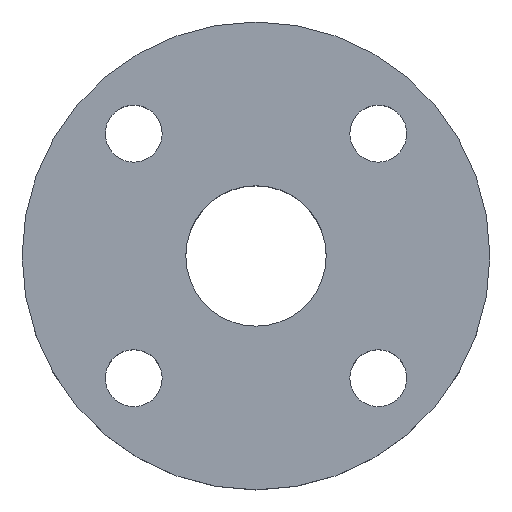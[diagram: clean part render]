
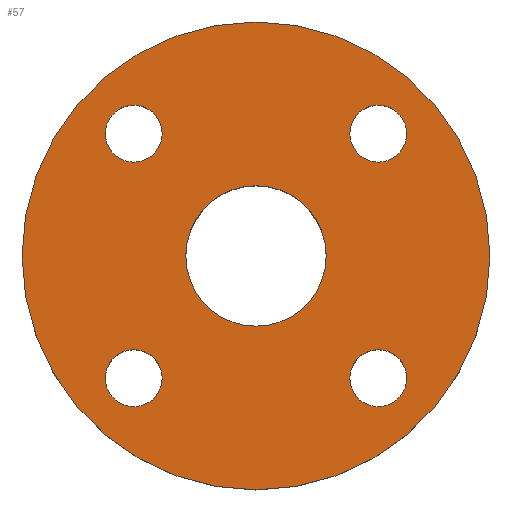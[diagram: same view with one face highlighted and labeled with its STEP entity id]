
A CAD part, top view. The second image highlights one B-rep face of the part: STEP entity #57.
In plain terms, the highlighted planar face has unit normal (0, 0, 1).
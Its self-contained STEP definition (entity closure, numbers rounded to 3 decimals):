
#9 = EDGE_CURVE ( 'NONE', #257, #280, #83, .T. ) ;
#11 = CIRCLE ( 'NONE', #14, 7. ) ;
#12 = EDGE_CURVE ( 'NONE', #343, #351, #82, .T. ) ;
#13 = EDGE_CURVE ( 'NONE', #351, #343, #74, .T. ) ;
#14 = AXIS2_PLACEMENT_3D ( 'NONE', #192, #195, #196 ) ;
#16 = CIRCLE ( 'NONE', #19, 7. ) ;
#19 = AXIS2_PLACEMENT_3D ( 'NONE', #221, #244, #245 ) ;
#42 = AXIS2_PLACEMENT_3D ( 'NONE', #503, #504, #505 ) ;
#43 = EDGE_CURVE ( 'NONE', #265, #426, #137, .T. ) ;
#44 = EDGE_CURVE ( 'NONE', #411, #263, #118, .T. ) ;
#45 = CIRCLE ( 'NONE', #59, 7. ) ;
#57 = ADVANCED_FACE ( 'NONE', ( #514, #515, #516, #518, #519, #520 ), #521, .T. ) ;
#59 = AXIS2_PLACEMENT_3D ( 'NONE', #542, #543, #544 ) ;
#63 = EDGE_CURVE ( 'NONE', #280, #257, #238, .T. ) ;
#73 = AXIS2_PLACEMENT_3D ( 'NONE', #471, #472, #473 ) ;
#74 = CIRCLE ( 'NONE', #73, 7. ) ;
#81 = AXIS2_PLACEMENT_3D ( 'NONE', #468, #469, #470 ) ;
#82 = CIRCLE ( 'NONE', #81, 7. ) ;
#83 = CIRCLE ( 'NONE', #147, 57.5 ) ;
#118 = CIRCLE ( 'NONE', #42, 7. ) ;
#121 = EDGE_CURVE ( 'NONE', #260, #441, #45, .T. ) ;
#122 = AXIS2_PLACEMENT_3D ( 'NONE', #499, #501, #502 ) ;
#129 = EDGE_CURVE ( 'NONE', #426, #265, #225, .T. ) ;
#130 = AXIS2_PLACEMENT_3D ( 'NONE', #608, #609, #610 ) ;
#131 = CIRCLE ( 'NONE', #130, 7. ) ;
#137 = CIRCLE ( 'NONE', #122, 17.25 ) ;
#147 = AXIS2_PLACEMENT_3D ( 'NONE', #465, #466, #467 ) ;
#192 = CARTESIAN_POINT ( 'NONE',  ( -30.052, 30.052, 0. ) ) ;
#193 = EDGE_CURVE ( 'NONE', #370, #347, #232, .T. ) ;
#195 = DIRECTION ( 'NONE',  ( 0., 0., -1. ) ) ;
#196 = DIRECTION ( 'NONE',  ( -1., 0., 0. ) ) ;
#203 = AXIS2_PLACEMENT_3D ( 'NONE', #545, #546, #548 ) ;
#210 = CARTESIAN_POINT ( 'NONE',  ( 37.052, 30.052, 0. ) ) ;
#212 = CARTESIAN_POINT ( 'NONE',  ( -23.052, 30.052, 0. ) ) ;
#214 = CARTESIAN_POINT ( 'NONE',  ( 23.052, 30.052, 0. ) ) ;
#221 = CARTESIAN_POINT ( 'NONE',  ( -30.052, -30.052, 0. ) ) ;
#225 = CIRCLE ( 'NONE', #203, 17.25 ) ;
#232 = CIRCLE ( 'NONE', #234, 7. ) ;
#234 = AXIS2_PLACEMENT_3D ( 'NONE', #585, #586, #587 ) ;
#237 = AXIS2_PLACEMENT_3D ( 'NONE', #525, #526, #527 ) ;
#238 = CIRCLE ( 'NONE', #237, 57.5 ) ;
#241 = AXIS2_PLACEMENT_3D ( 'NONE', #522, #523, #524 ) ;
#244 = DIRECTION ( 'NONE',  ( 0., 0., -1. ) ) ;
#245 = DIRECTION ( 'NONE',  ( -1., 0., 0. ) ) ;
#251 = EDGE_CURVE ( 'NONE', #263, #411, #131, .T. ) ;
#257 = VERTEX_POINT ( 'NONE', #618 ) ;
#260 = VERTEX_POINT ( 'NONE', #624 ) ;
#262 = EDGE_LOOP ( 'NONE', ( #378, #379 ) ) ;
#263 = VERTEX_POINT ( 'NONE', #631 ) ;
#265 = VERTEX_POINT ( 'NONE', #633 ) ;
#280 = VERTEX_POINT ( 'NONE', #636 ) ;
#283 = CARTESIAN_POINT ( 'NONE',  ( -37.052, 30.052, 0. ) ) ;
#293 = CARTESIAN_POINT ( 'NONE',  ( 23.052, -30.052, 0. ) ) ;
#294 = EDGE_LOOP ( 'NONE', ( #382, #383 ) ) ;
#307 = CARTESIAN_POINT ( 'NONE',  ( -17.25, 0., 0. ) ) ;
#311 = CARTESIAN_POINT ( 'NONE',  ( -37.052, -30.052, 0. ) ) ;
#331 = EDGE_CURVE ( 'NONE', #347, #370, #11, .T. ) ;
#334 = EDGE_LOOP ( 'NONE', ( #384, #385 ) ) ;
#343 = VERTEX_POINT ( 'NONE', #210 ) ;
#347 = VERTEX_POINT ( 'NONE', #212 ) ;
#351 = VERTEX_POINT ( 'NONE', #214 ) ;
#356 = EDGE_CURVE ( 'NONE', #441, #260, #16, .T. ) ;
#370 = VERTEX_POINT ( 'NONE', #283 ) ;
#373 = ORIENTED_EDGE ( 'NONE', *, *, #251, .T. ) ;
#375 = ORIENTED_EDGE ( 'NONE', *, *, #44, .T. ) ;
#376 = ORIENTED_EDGE ( 'NONE', *, *, #121, .T. ) ;
#377 = ORIENTED_EDGE ( 'NONE', *, *, #356, .T. ) ;
#378 = ORIENTED_EDGE ( 'NONE', *, *, #331, .T. ) ;
#379 = ORIENTED_EDGE ( 'NONE', *, *, #193, .T. ) ;
#380 = ORIENTED_EDGE ( 'NONE', *, *, #12, .T. ) ;
#381 = ORIENTED_EDGE ( 'NONE', *, *, #13, .T. ) ;
#382 = ORIENTED_EDGE ( 'NONE', *, *, #43, .F. ) ;
#383 = ORIENTED_EDGE ( 'NONE', *, *, #129, .F. ) ;
#384 = ORIENTED_EDGE ( 'NONE', *, *, #9, .T. ) ;
#385 = ORIENTED_EDGE ( 'NONE', *, *, #63, .T. ) ;
#411 = VERTEX_POINT ( 'NONE', #293 ) ;
#426 = VERTEX_POINT ( 'NONE', #307 ) ;
#439 = EDGE_LOOP ( 'NONE', ( #373, #375 ) ) ;
#440 = EDGE_LOOP ( 'NONE', ( #376, #377 ) ) ;
#441 = VERTEX_POINT ( 'NONE', #311 ) ;
#446 = EDGE_LOOP ( 'NONE', ( #380, #381 ) ) ;
#465 = CARTESIAN_POINT ( 'NONE',  ( 0., 0., 0. ) ) ;
#466 = DIRECTION ( 'NONE',  ( 0., 0., 1. ) ) ;
#467 = DIRECTION ( 'NONE',  ( 1., 0., 0. ) ) ;
#468 = CARTESIAN_POINT ( 'NONE',  ( 30.052, 30.052, 0. ) ) ;
#469 = DIRECTION ( 'NONE',  ( 0., 0., -1. ) ) ;
#470 = DIRECTION ( 'NONE',  ( -1., 0., 0. ) ) ;
#471 = CARTESIAN_POINT ( 'NONE',  ( 30.052, 30.052, 0. ) ) ;
#472 = DIRECTION ( 'NONE',  ( 0., 0., -1. ) ) ;
#473 = DIRECTION ( 'NONE',  ( -1., 0., 0. ) ) ;
#499 = CARTESIAN_POINT ( 'NONE',  ( 0., 0., 0. ) ) ;
#501 = DIRECTION ( 'NONE',  ( 0., 0., 1. ) ) ;
#502 = DIRECTION ( 'NONE',  ( 1., 0., 0. ) ) ;
#503 = CARTESIAN_POINT ( 'NONE',  ( 30.052, -30.052, 0. ) ) ;
#504 = DIRECTION ( 'NONE',  ( 0., 0., -1. ) ) ;
#505 = DIRECTION ( 'NONE',  ( -1., 0., 0. ) ) ;
#514 = FACE_BOUND ( 'NONE', #439, .T. ) ;
#515 = FACE_BOUND ( 'NONE', #440, .T. ) ;
#516 = FACE_BOUND ( 'NONE', #262, .T. ) ;
#518 = FACE_BOUND ( 'NONE', #446, .T. ) ;
#519 = FACE_BOUND ( 'NONE', #294, .T. ) ;
#520 = FACE_OUTER_BOUND ( 'NONE', #334, .T. ) ;
#521 = PLANE ( 'NONE',  #241 ) ;
#522 = CARTESIAN_POINT ( 'NONE',  ( 0., 0., 0. ) ) ;
#523 = DIRECTION ( 'NONE',  ( 0., 0., 1. ) ) ;
#524 = DIRECTION ( 'NONE',  ( 1., 0., 0. ) ) ;
#525 = CARTESIAN_POINT ( 'NONE',  ( 0., 0., 0. ) ) ;
#526 = DIRECTION ( 'NONE',  ( 0., 0., 1. ) ) ;
#527 = DIRECTION ( 'NONE',  ( 1., 0., 0. ) ) ;
#542 = CARTESIAN_POINT ( 'NONE',  ( -30.052, -30.052, 0. ) ) ;
#543 = DIRECTION ( 'NONE',  ( 0., 0., -1. ) ) ;
#544 = DIRECTION ( 'NONE',  ( -1., 0., 0. ) ) ;
#545 = CARTESIAN_POINT ( 'NONE',  ( 0., 0., 0. ) ) ;
#546 = DIRECTION ( 'NONE',  ( 0., 0., 1. ) ) ;
#548 = DIRECTION ( 'NONE',  ( 1., 0., 0. ) ) ;
#585 = CARTESIAN_POINT ( 'NONE',  ( -30.052, 30.052, 0. ) ) ;
#586 = DIRECTION ( 'NONE',  ( 0., 0., -1. ) ) ;
#587 = DIRECTION ( 'NONE',  ( -1., 0., 0. ) ) ;
#608 = CARTESIAN_POINT ( 'NONE',  ( 30.052, -30.052, 0. ) ) ;
#609 = DIRECTION ( 'NONE',  ( 0., 0., -1. ) ) ;
#610 = DIRECTION ( 'NONE',  ( -1., 0., 0. ) ) ;
#618 = CARTESIAN_POINT ( 'NONE',  ( 57.5, 0., 0. ) ) ;
#624 = CARTESIAN_POINT ( 'NONE',  ( -23.052, -30.052, 0. ) ) ;
#631 = CARTESIAN_POINT ( 'NONE',  ( 37.052, -30.052, 0. ) ) ;
#633 = CARTESIAN_POINT ( 'NONE',  ( 17.25, 0., 0. ) ) ;
#636 = CARTESIAN_POINT ( 'NONE',  ( -57.5, 0., 0. ) ) ;
